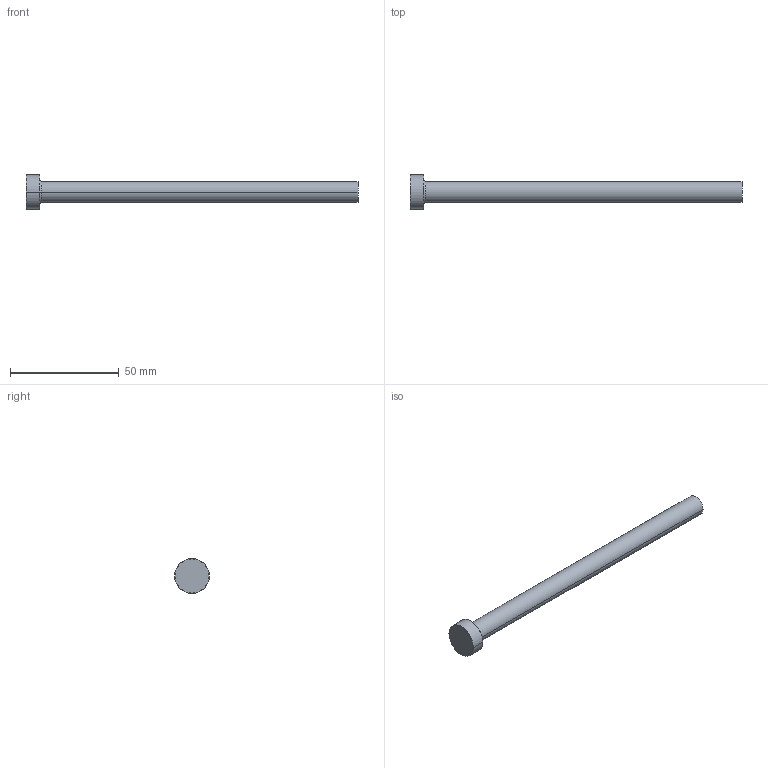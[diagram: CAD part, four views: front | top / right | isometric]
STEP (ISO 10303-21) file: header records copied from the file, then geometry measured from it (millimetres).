
FILE_DESCRIPTION (( 'STEP AP214' ), '1' );
FILE_NAME ('P25-6.STEP', '2020-03-12T09:55:16', ( '' ), ( '' ), 'SwSTEP 2.0', 'SolidWorks 2018', '' );
FILE_SCHEMA (( 'AUTOMOTIVE_DESIGN' ));
Length unit declared in the file: inch
Products named in the file (1): P25-6
Bounding box: 152.4 x 15.88 x 15.88 mm (x, y, z)
Volume: 11650.5 mm3; surface area: 5063.9 mm2
Topology: 1 solids, 1 shells, 13 faces, 24 edges, 14 vertices
Faces by surface type: cone 4, cylinder 4, plane 3, torus 2
Entity records: 366 total; most frequent: DIRECTION 68, CARTESIAN_POINT 52, ORIENTED_EDGE 48, AXIS2_PLACEMENT_3D 30, EDGE_CURVE 24, CIRCLE 16, VERTEX_POINT 14, EDGE_LOOP 14
